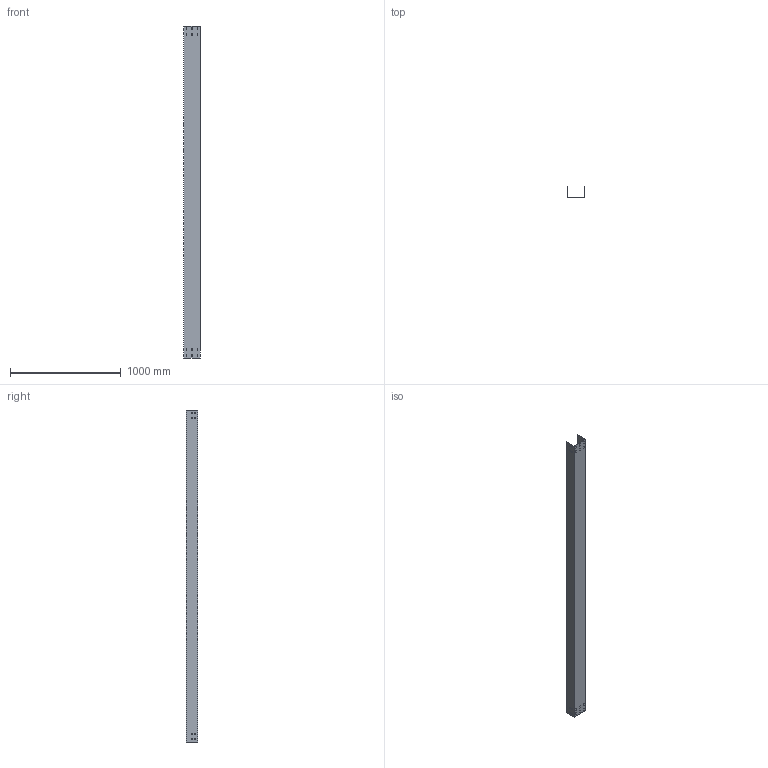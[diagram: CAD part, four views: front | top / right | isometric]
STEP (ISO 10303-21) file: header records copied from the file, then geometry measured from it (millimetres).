
FILE_DESCRIPTION (( 'STEP AP214' ), '1' );
FILE_NAME ('CF_151.step', '2025-07-16T09:05:22', ( '' ), ( '' ), 'SwSTEP 2.0', 'SolidWorks 2023', '' );
FILE_SCHEMA (( 'AUTOMOTIVE_DESIGN' ));
Length unit declared in the file: millimetre
Products named in the file (1): CF_151
Bounding box: 150 x 100 x 3000 mm (x, y, z)
Volume: 1557300 mm3; surface area: 2088229 mm2
Topology: 1 solids, 1 shells, 122 faces, 360 edges, 240 vertices
Faces by surface type: plane 122
Entity records: 4119 total; most frequent: CARTESIAN_POINT 723, ORIENTED_EDGE 720, DIRECTION 606, VECTOR 360, LINE 360, EDGE_CURVE 360, VERTEX_POINT 240, EDGE_LOOP 178
